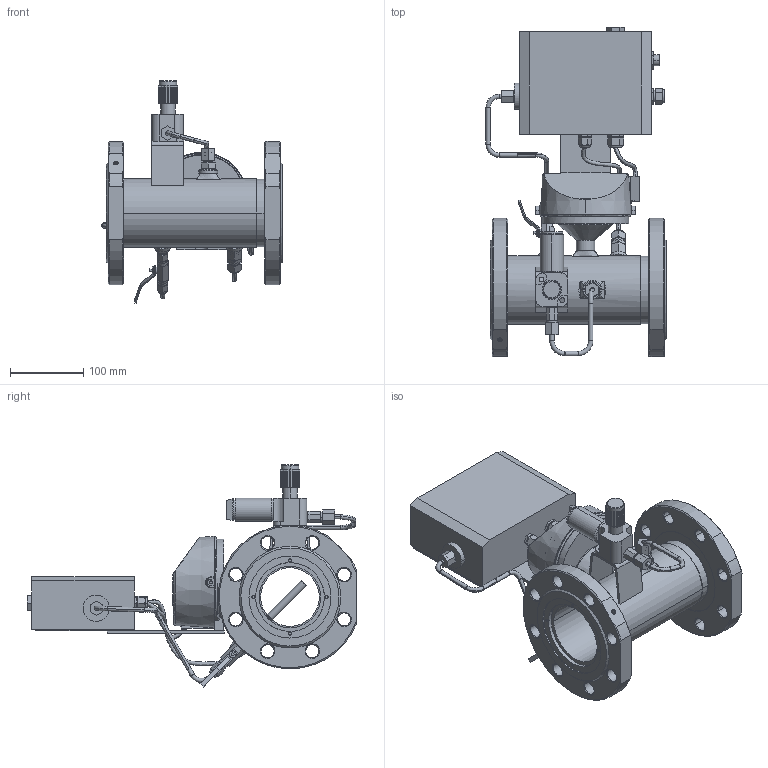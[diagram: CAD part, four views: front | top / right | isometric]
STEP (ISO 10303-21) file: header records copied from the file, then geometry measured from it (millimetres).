
FILE_DESCRIPTION((''),'2;1');
FILE_NAME('SG_SUPERFLOW_DY80_L_ASM','2020-12-23T',('solovki'),(''),'CREO PARAMETRIC BY PTC INC, 2018360','CREO PARAMETRIC BY PTC INC, 2018360','');
FILE_SCHEMA(('AUTOMOTIVE_DESIGN { 1 0 10303 214 1 1 1 1 }'));
Length unit declared in the file: millimetre
Products named in the file (29): 503_AF6; 504_AF4; 505_AF4; 506_AF3; 507_AF3; 508_AF3; 508_AF2; 509; 502_AF2_ASM; 510; 511; 512; 513; 501_AF0_ASM; 516; 517; 519; 520; 521; 522; 523; 518_ASM; 524; 525; 526; 527; 528; 529; SG_SUPERFLOW_DY80_L_ASM
Assembly tree (31 placements, depth 4):
  SG_SUPERFLOW_DY80_L_ASM
    501_AF0_ASM
      502_AF2_ASM
        503_AF6
        504_AF4
        505_AF4
        506_AF3
        507_AF3
        508_AF3
        508_AF2
        509
      510
      511
      512  x2
      513
    516
    517
    518_ASM
      519
      520
      521
      522
      523  x2
    524
    525
    526
    527
    512
    528
    529
Bounding box: 246 x 449.5 x 303.14 mm (x, y, z)
Volume: 4192171.8 mm3; surface area: 672202.9 mm2
Topology: 28 solids, 58 shells, 1336 faces, 3258 edges, 2058 vertices
Faces by surface type: plane 529, cylinder 482, cone 211, torus 49, bspline 42, sphere 22, extrusion 1
Entity records: 62164 total; most frequent: CARTESIAN_POINT 11545, DIRECTION 6679, ORIENTED_EDGE 6014, PRESENTATION_STYLE_ASSIGNMENT 4385, STYLED_ITEM 4385, EDGE_CURVE 3080, CURVE_STYLE 3069, AXIS2_PLACEMENT_3D 2574
